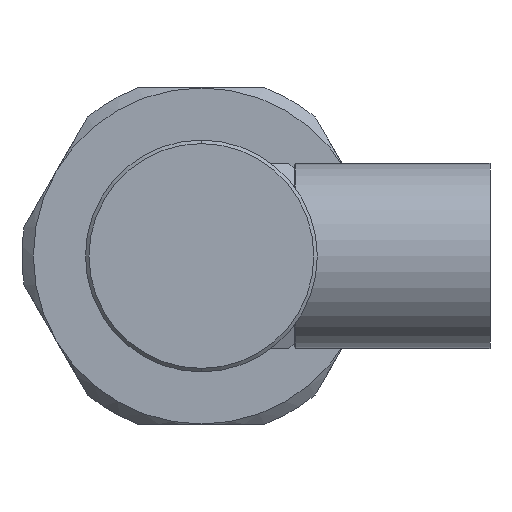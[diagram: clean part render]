
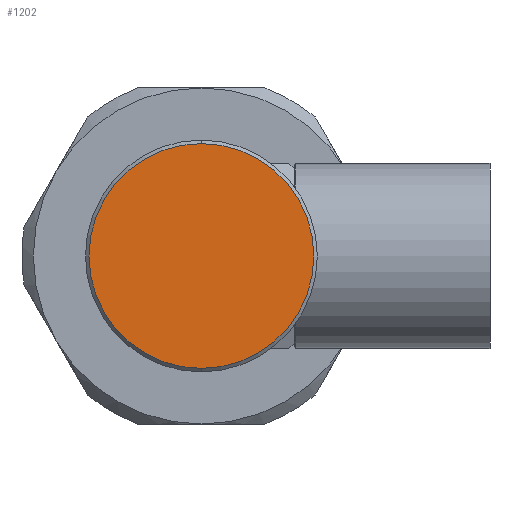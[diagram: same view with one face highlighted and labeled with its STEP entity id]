
A CAD part, left-side view. The second image highlights one B-rep face of the part: STEP entity #1202.
In plain terms, the highlighted planar face has unit normal (-1, 0, 0).
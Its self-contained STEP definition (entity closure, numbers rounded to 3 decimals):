
#120 = CARTESIAN_POINT ( 'NONE',  ( -97.5, 0., -9.7 ) ) ;
#140 = FACE_OUTER_BOUND ( 'NONE', #1685, .T. ) ;
#558 = DIRECTION ( 'NONE',  ( 0., 0., -1. ) ) ;
#591 = VERTEX_POINT ( 'NONE', #120 ) ;
#592 = CIRCLE ( 'NONE', #1642, 9.7 ) ;
#676 = PLANE ( 'NONE',  #887 ) ;
#869 = DIRECTION ( 'NONE',  ( -1., 0., 0. ) ) ;
#886 = CARTESIAN_POINT ( 'NONE',  ( -97.5, 0., 0. ) ) ;
#887 = AXIS2_PLACEMENT_3D ( 'NONE', #1395, #869, #1403 ) ;
#1118 = AXIS2_PLACEMENT_3D ( 'NONE', #886, #2307, #1418 ) ;
#1135 = CARTESIAN_POINT ( 'NONE',  ( -97.5, 0., 0. ) ) ;
#1202 = ADVANCED_FACE ( 'NONE', ( #140 ), #676, .T. ) ;
#1395 = CARTESIAN_POINT ( 'NONE',  ( -97.5, 9.7, 0. ) ) ;
#1403 = DIRECTION ( 'NONE',  ( 0., 0., 1. ) ) ;
#1418 = DIRECTION ( 'NONE',  ( 0., 0., -1. ) ) ;
#1605 = CIRCLE ( 'NONE', #1118, 9.7 ) ;
#1642 = AXIS2_PLACEMENT_3D ( 'NONE', #1135, #1830, #558 ) ;
#1685 = EDGE_LOOP ( 'NONE', ( #1711, #2078 ) ) ;
#1697 = VERTEX_POINT ( 'NONE', #2155 ) ;
#1711 = ORIENTED_EDGE ( 'NONE', *, *, #2032, .F. ) ;
#1830 = DIRECTION ( 'NONE',  ( 1., 0., 0. ) ) ;
#2032 = EDGE_CURVE ( 'NONE', #591, #1697, #1605, .T. ) ;
#2078 = ORIENTED_EDGE ( 'NONE', *, *, #2124, .F. ) ;
#2124 = EDGE_CURVE ( 'NONE', #1697, #591, #592, .T. ) ;
#2155 = CARTESIAN_POINT ( 'NONE',  ( -97.5, 0., 9.7 ) ) ;
#2307 = DIRECTION ( 'NONE',  ( 1., 0., 0. ) ) ;
